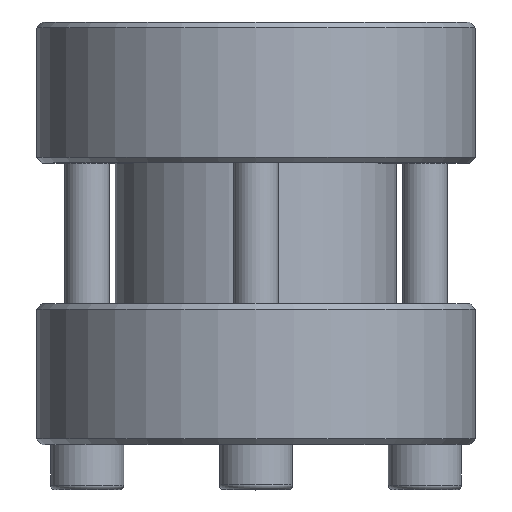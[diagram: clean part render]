
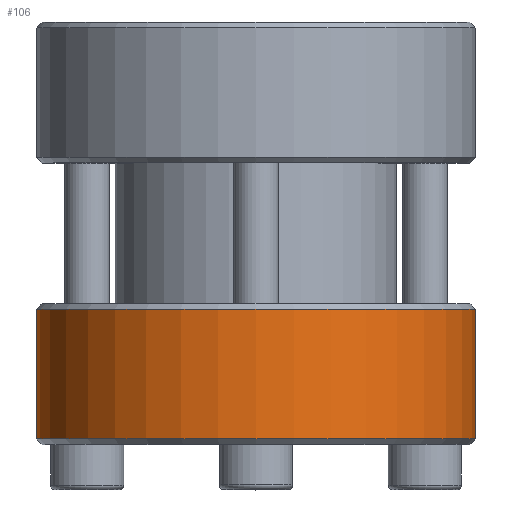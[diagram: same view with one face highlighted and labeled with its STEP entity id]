
A CAD part, top view. The second image highlights one B-rep face of the part: STEP entity #106.
In plain terms, the highlighted cylindrical face has radius 39 mm (diameter 78 mm), a full revolution.
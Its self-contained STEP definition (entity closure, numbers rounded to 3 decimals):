
#106 = ADVANCED_FACE( '', ( #222, #223 ), #224, .T. );
#222 = FACE_OUTER_BOUND( '', #362, .T. );
#223 = FACE_OUTER_BOUND( '', #363, .T. );
#224 = CYLINDRICAL_SURFACE( '', #364, 39. );
#362 = EDGE_LOOP( '', ( #597 ) );
#363 = EDGE_LOOP( '', ( #598 ) );
#364 = AXIS2_PLACEMENT_3D( '', #599, #600, #601 );
#597 = ORIENTED_EDGE( '', *, *, #804, .T. );
#598 = ORIENTED_EDGE( '', *, *, #814, .T. );
#599 = CARTESIAN_POINT( '', ( 0., -60., 0. ) );
#600 = DIRECTION( '', ( 0., 1., 0. ) );
#601 = DIRECTION( '', ( 0., 0., -1. ) );
#804 = EDGE_CURVE( '', #991, #991, #992, .T. );
#814 = EDGE_CURVE( '', #1006, #1006, #1007, .T. );
#991 = VERTEX_POINT( '', #1319 );
#992 = CIRCLE( '', #1320, 39. );
#1006 = VERTEX_POINT( '', #1334 );
#1007 = CIRCLE( '', #1335, 39. );
#1319 = CARTESIAN_POINT( '', ( 0., 24., -39. ) );
#1320 = AXIS2_PLACEMENT_3D( '', #1473, #1474, #1475 );
#1334 = CARTESIAN_POINT( '', ( 0., 1., 39. ) );
#1335 = AXIS2_PLACEMENT_3D( '', #1491, #1492, #1493 );
#1473 = CARTESIAN_POINT( '', ( 0., 24., 0. ) );
#1474 = DIRECTION( '', ( 0., -1., 0. ) );
#1475 = DIRECTION( '', ( 0., 0., -1. ) );
#1491 = CARTESIAN_POINT( '', ( 0., 1., 0. ) );
#1492 = DIRECTION( '', ( 0., 1., 0. ) );
#1493 = DIRECTION( '', ( 0., 0., 1. ) );
